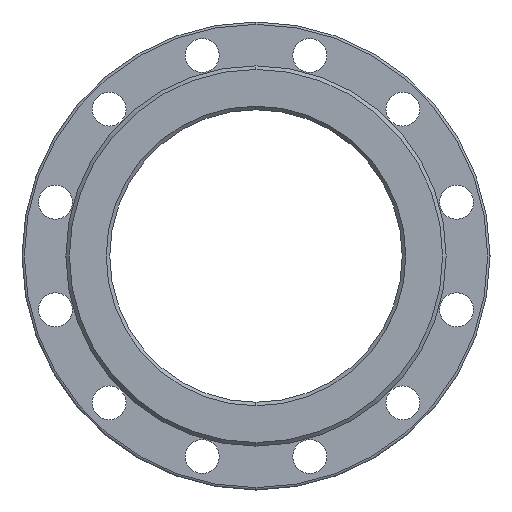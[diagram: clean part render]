
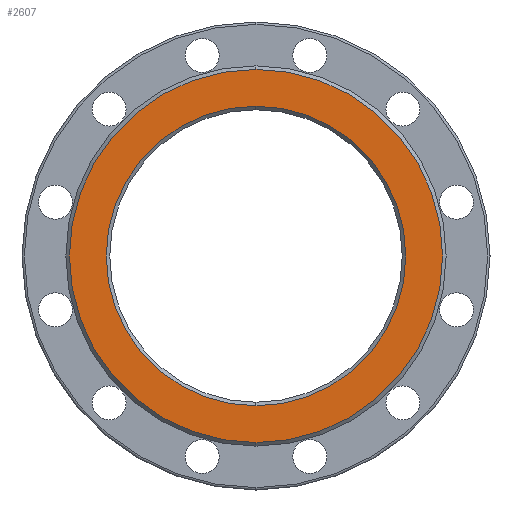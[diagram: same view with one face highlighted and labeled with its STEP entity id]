
A CAD part, left-side view. The second image highlights one B-rep face of the part: STEP entity #2607.
In plain terms, the highlighted planar face has unit normal (-1, 0, 0).
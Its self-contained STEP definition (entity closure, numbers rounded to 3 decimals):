
#33 = CARTESIAN_POINT ( 'NONE',  ( -250., 0., 0. ) ) ;
#272 = CIRCLE ( 'NONE', #3038, 159.5 ) ;
#360 = CIRCLE ( 'NONE', #3757, 159.5 ) ;
#711 = ORIENTED_EDGE ( 'NONE', *, *, #1584, .T. ) ;
#718 = DIRECTION ( 'NONE',  ( 0., 0., -1. ) ) ;
#847 = CARTESIAN_POINT ( 'NONE',  ( -250., 0., -159.5 ) ) ;
#848 = FACE_BOUND ( 'NONE', #3748, .T. ) ;
#1192 = DIRECTION ( 'NONE',  ( 0., 0., -1. ) ) ;
#1217 = CARTESIAN_POINT ( 'NONE',  ( -250., 0., 159.5 ) ) ;
#1240 = CARTESIAN_POINT ( 'NONE',  ( -250., 0., 0. ) ) ;
#1410 = VERTEX_POINT ( 'NONE', #847 ) ;
#1562 = ORIENTED_EDGE ( 'NONE', *, *, #4494, .T. ) ;
#1584 = EDGE_CURVE ( 'Defeatured_0_3+Defeatured_0_4+Defeatured_0_4+Defeatured_0_4', #1410, #4107, #272, .T. ) ;
#1754 = DIRECTION ( 'NONE',  ( 0., 0., 1. ) ) ;
#1764 = AXIS2_PLACEMENT_3D ( 'NONE', #3395, #1985, #1192 ) ;
#1785 = CIRCLE ( 'NONE', #4401, 128. ) ;
#1940 = DIRECTION ( 'NONE',  ( -1., 0., 0. ) ) ;
#1985 = DIRECTION ( 'NONE',  ( 1., 0., 0. ) ) ;
#2144 = DIRECTION ( 'NONE',  ( -1., 0., 0. ) ) ;
#2278 = FACE_OUTER_BOUND ( 'NONE', #4031, .T. ) ;
#2354 = VERTEX_POINT ( 'NONE', #3062 ) ;
#2362 = PLANE ( 'NONE',  #1764 ) ;
#2366 = DIRECTION ( 'NONE',  ( 0., 0., 1. ) ) ;
#2375 = DIRECTION ( 'NONE',  ( 1., 0., 0. ) ) ;
#2388 = CARTESIAN_POINT ( 'NONE',  ( -250., 0., 0. ) ) ;
#2536 = ORIENTED_EDGE ( 'NONE', *, *, #2681, .T. ) ;
#2607 = ADVANCED_FACE ( 'Defeatured_0_3', ( #848, #2278 ), #2362, .F. ) ;
#2681 = EDGE_CURVE ( 'Defeatured_0_3+Defeatured_0_24+Defeatured_0_24+Defeatured_0_24', #2354, #3087, #4790, .T. ) ;
#2708 = DIRECTION ( 'NONE',  ( 1., 0., 0. ) ) ;
#2965 = EDGE_CURVE ( 'Defeatured_0_3+Defeatured_0_4+Defeatured_0_4+Defeatured_0_4', #4107, #1410, #360, .T. ) ;
#3024 = DIRECTION ( 'NONE',  ( 0., 0., -1. ) ) ;
#3038 = AXIS2_PLACEMENT_3D ( 'NONE', #3691, #2144, #1754 ) ;
#3062 = CARTESIAN_POINT ( 'NONE',  ( -250., 0., -128. ) ) ;
#3087 = VERTEX_POINT ( 'NONE', #4022 ) ;
#3395 = CARTESIAN_POINT ( 'NONE',  ( -250., 125., 0. ) ) ;
#3691 = CARTESIAN_POINT ( 'NONE',  ( -250., 0., 0. ) ) ;
#3748 = EDGE_LOOP ( 'NONE', ( #1562, #2536 ) ) ;
#3757 = AXIS2_PLACEMENT_3D ( 'NONE', #33, #1940, #2366 ) ;
#3887 = ORIENTED_EDGE ( 'NONE', *, *, #2965, .T. ) ;
#4022 = CARTESIAN_POINT ( 'NONE',  ( -250., 0., 128. ) ) ;
#4031 = EDGE_LOOP ( 'NONE', ( #711, #3887 ) ) ;
#4107 = VERTEX_POINT ( 'NONE', #1217 ) ;
#4312 = AXIS2_PLACEMENT_3D ( 'NONE', #2388, #2708, #3024 ) ;
#4401 = AXIS2_PLACEMENT_3D ( 'NONE', #1240, #2375, #718 ) ;
#4494 = EDGE_CURVE ( 'Defeatured_0_3+Defeatured_0_24+Defeatured_0_24+Defeatured_0_24', #3087, #2354, #1785, .T. ) ;
#4790 = CIRCLE ( 'NONE', #4312, 128. ) ;
